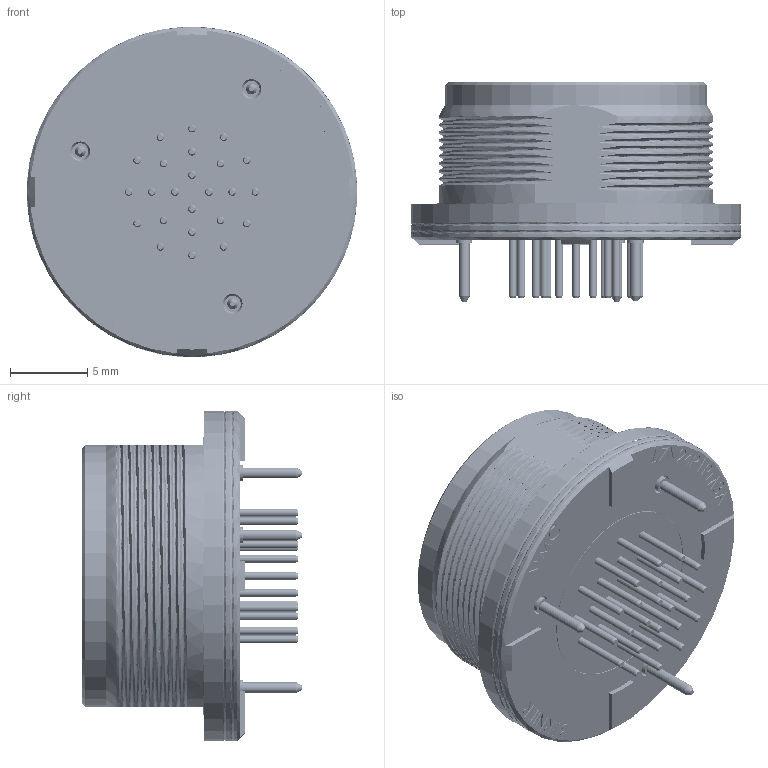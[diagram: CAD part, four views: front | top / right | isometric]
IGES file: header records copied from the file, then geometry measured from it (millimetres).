
Start section: SolidWorks IGES file using analytic representation for surfaces
Global section: file name: C:\Users\dmt\Desktop\MMC_L7N24P1PM3A.IGS; native system: SolidWorks 2017; preprocessor: SolidWorks 2017; author: dmt; date: 190703.180202; units: millimetre
Bounding box: 21.4 x 14.2 x 21.4 mm (x, y, z)
Surface area: 2769.6 mm2 (no closed solid volume)
Topology: 0 solids, 0 shells, 1687 faces, 19694 edges, 19619 vertices
Faces by surface type: bspline 1049, revolution 638
